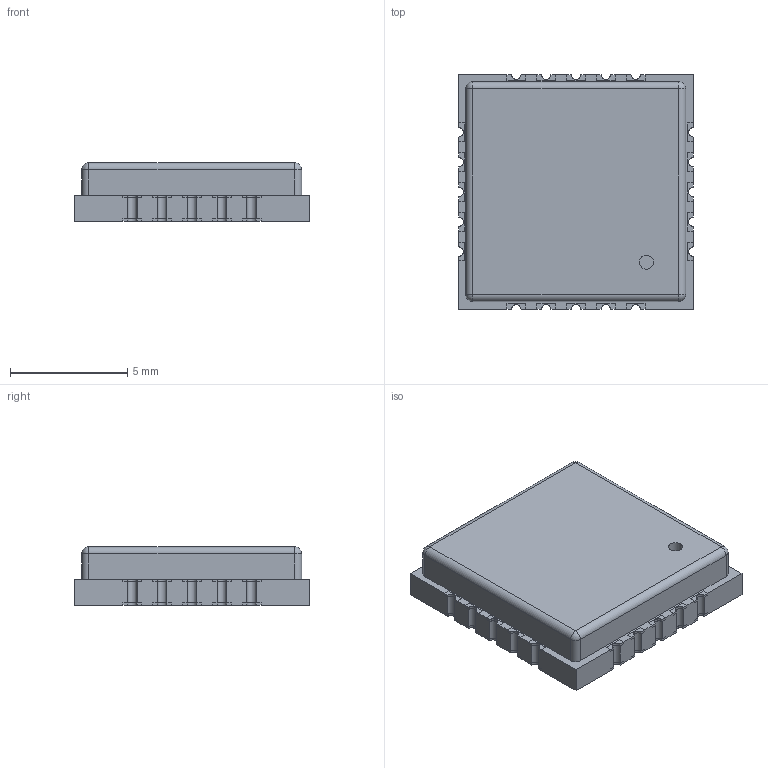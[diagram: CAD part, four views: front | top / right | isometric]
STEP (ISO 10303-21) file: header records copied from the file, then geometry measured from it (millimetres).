
FILE_DESCRIPTION(/* description */ ('','CAx-IF Rec.Pracs.---Representation and Presentation of Product Manufacturing Information (PMI)---4.0---2014-10-13'),/* implementation_level */ '2;1');
FILE_NAME(/* name */ 'e220-400mm22s v2.step',/* time_stamp */ '2025-02-12T16:16:49+01:00',/* author */ (''),/* organization */ (''),/* preprocessor_version */ 'ST-DEVELOPER v20',/* originating_system */ 'Autodesk Translation Framework v13.20.0.188',/* authorisation */ '');
FILE_SCHEMA (('AP242_MANAGED_MODEL_BASED_3D_ENGINEERING_MIM_LF { 1 0 10303 442 1 1 4 }'));
Length unit declared in the file: millimetre
Products named in the file (1): e220-400mm22s
Bounding box: 10 x 10 x 2.5 mm (x, y, z)
Volume: 230.5 mm3; surface area: 336.5 mm2
Topology: 41 solids, 41 shells, 545 faces, 1371 edges, 910 vertices
Faces by surface type: plane 472, cylinder 69, sphere 4
Full cylindrical faces by diameter (mm): 0.6 x1
Entity records: 16140 total; most frequent: CARTESIAN_POINT 2827, ORIENTED_EDGE 2742, DIRECTION 2601, EDGE_CURVE 1371, LINE 1233, VECTOR 1233, VERTEX_POINT 910, AXIS2_PLACEMENT_3D 684
